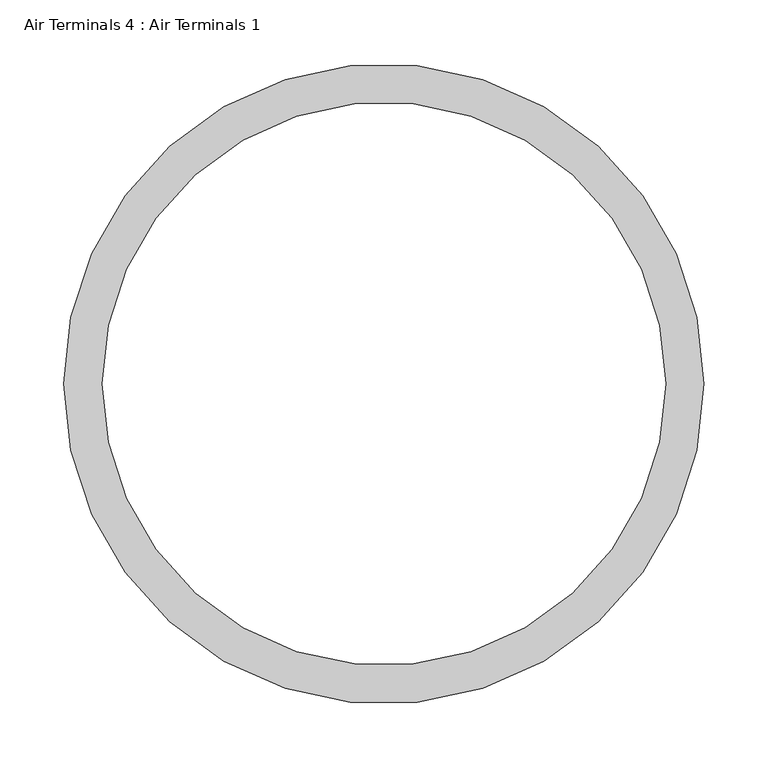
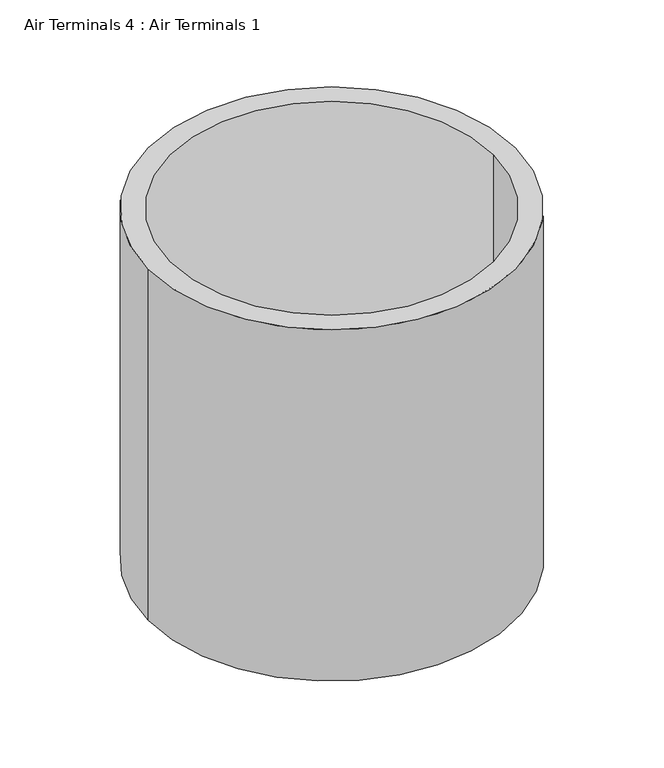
"""IFC4 building model written with IfcOpenShell, lengths in millimetres: air terminal geometry, Air Terminals 4 : Air Terminals 1."""

from ifc_helpers import new_model, si_unit, point, frame_2d, origin, origin_with_axes, place, context, project, spatial, circle_curve, trimmed, segment, composite_curve, outline, extrude, source, transform, mapped, element, save


def air_terminals_4_air_terminals_1_a13ba462(model_context):
    return source(origin(), model_context, "Body", "SweptSolid", [
        extrude(outline(composite_curve([segment(trimmed(circle_curve(frame_2d((98914.7741615, 20988.6702377)), 250.0), [point((98664.7741615, 20988.6702377))], [point((99164.7741615, 20988.6702377))], False, "CARTESIAN"), True, "CONTINUOUS"), segment(trimmed(circle_curve(frame_2d((98914.7741615, 20988.6702377)), 250.0), [point((99164.7741615, 20988.6702377))], [point((98664.7741615, 20988.6702377))], False, "CARTESIAN"), True, "CONTINUOUS")], self_intersect=False), holes=[composite_curve([segment(trimmed(circle_curve(frame_2d((98914.7741615, 20988.6702377)), 220.0), [point((98694.7741615, 20988.6702377))], [point((99134.7741615, 20988.6702377))], True, "CARTESIAN"), True, "CONTINUOUS"), segment(trimmed(circle_curve(frame_2d((98914.7741615, 20988.6702377)), 220.0), [point((99134.7741615, 20988.6702377))], [point((98694.7741615, 20988.6702377))], True, "CARTESIAN"), True, "CONTINUOUS")], self_intersect=False)]), origin_with_axes(), (0.0, 0.0, 1.0), 506.0342522),
    ])


if __name__ == "__main__":
    model = new_model("IFC4")
    model_context = context("Model", 3, world=origin())
    ifc_project = project(units=[si_unit("LENGTHUNIT", "METRE", prefix="MILLI")], contexts=[model_context])
    site = spatial("IfcSite", under=ifc_project)
    building = spatial("IfcBuilding", under=site)
    placement = place(None, origin())
    air_terminals_4_air_terminals_1_shape = air_terminals_4_air_terminals_1_a13ba462(model_context)
    element("IfcAirTerminal", 1, ObjectType="Air Terminals 4 : Air Terminals 1", at=placement, inside=building, context=model_context, shape_type="MappedRepresentation", body=[
        mapped(air_terminals_4_air_terminals_1_shape, transform((0.0, 0.0, 0.0), x_axis=(1.0, 0.0, 0.0), y_axis=(0.0, 1.0, 0.0), z_axis=(0.0, 0.0, 1.0))),
    ])
    save(model, "model.ifc")
